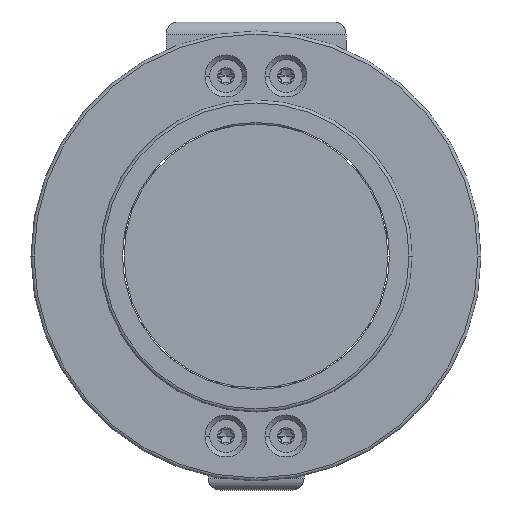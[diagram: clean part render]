
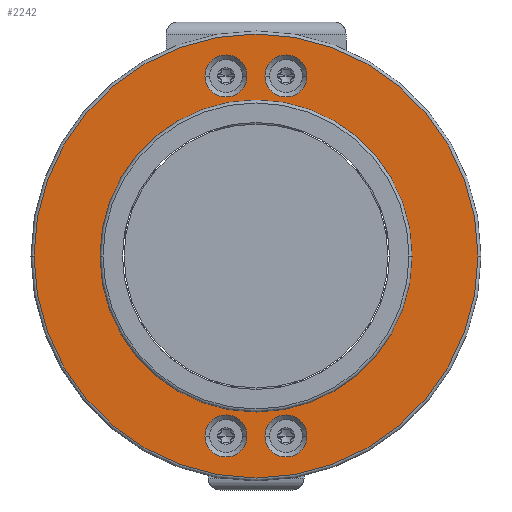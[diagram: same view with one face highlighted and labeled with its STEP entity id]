
A CAD part, front view. The second image highlights one B-rep face of the part: STEP entity #2242.
In plain terms, the highlighted planar face has unit normal (0, -1, 0) as drawn and (0, 1, 0) by its records, which use the part's own axes.
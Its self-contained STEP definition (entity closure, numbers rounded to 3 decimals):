
#1277=CARTESIAN_POINT('',(0.,2.,0.));
#1278=DIRECTION('',(0.,-1.,0.));
#1279=DIRECTION('',(-1.,0.,0.));
#1280=AXIS2_PLACEMENT_3D('',#1277,#1278,#1279);
#1285=CARTESIAN_POINT('',(0.,2.,0.));
#1286=DIRECTION('',(0.,-1.,0.));
#1287=DIRECTION('',(1.,0.,0.));
#1288=AXIS2_PLACEMENT_3D('',#1285,#1286,#1287);
#1293=CARTESIAN_POINT('',(0.,2.,0.));
#1294=DIRECTION('',(0.,-1.,0.));
#1295=DIRECTION('',(-1.,0.,0.));
#1296=AXIS2_PLACEMENT_3D('',#1293,#1294,#1295);
#1301=CARTESIAN_POINT('',(0.,2.,0.));
#1302=DIRECTION('',(0.,-1.,0.));
#1303=DIRECTION('',(1.,0.,0.));
#1304=AXIS2_PLACEMENT_3D('',#1301,#1302,#1303);
#1309=CARTESIAN_POINT('',(-5.,2.,-30.));
#1310=DIRECTION('',(0.,1.,0.));
#1311=DIRECTION('',(1.,0.,0.));
#1312=AXIS2_PLACEMENT_3D('',#1309,#1310,#1311);
#1317=CARTESIAN_POINT('',(-5.,2.,-30.));
#1318=DIRECTION('',(0.,1.,0.));
#1319=DIRECTION('',(-1.,0.,0.));
#1320=AXIS2_PLACEMENT_3D('',#1317,#1318,#1319);
#1325=CARTESIAN_POINT('',(5.,2.,-30.));
#1326=DIRECTION('',(0.,1.,0.));
#1327=DIRECTION('',(1.,0.,0.));
#1328=AXIS2_PLACEMENT_3D('',#1325,#1326,#1327);
#1333=CARTESIAN_POINT('',(5.,2.,-30.));
#1334=DIRECTION('',(0.,1.,0.));
#1335=DIRECTION('',(-1.,0.,0.));
#1336=AXIS2_PLACEMENT_3D('',#1333,#1334,#1335);
#1341=CARTESIAN_POINT('',(-5.,2.,30.));
#1342=DIRECTION('',(0.,1.,0.));
#1343=DIRECTION('',(1.,0.,0.));
#1344=AXIS2_PLACEMENT_3D('',#1341,#1342,#1343);
#1349=CARTESIAN_POINT('',(-5.,2.,30.));
#1350=DIRECTION('',(0.,1.,0.));
#1351=DIRECTION('',(-1.,0.,0.));
#1352=AXIS2_PLACEMENT_3D('',#1349,#1350,#1351);
#1357=CARTESIAN_POINT('',(5.,2.,30.));
#1358=DIRECTION('',(0.,1.,0.));
#1359=DIRECTION('',(1.,0.,0.));
#1360=AXIS2_PLACEMENT_3D('',#1357,#1358,#1359);
#1365=CARTESIAN_POINT('',(5.,2.,30.));
#1366=DIRECTION('',(0.,1.,0.));
#1367=DIRECTION('',(-1.,0.,0.));
#1368=AXIS2_PLACEMENT_3D('',#1365,#1366,#1367);
#1859=CARTESIAN_POINT('',(-26.,2.,0.));
#1860=CARTESIAN_POINT('',(26.,2.,0.));
#1861=VERTEX_POINT('',#1859);
#1862=VERTEX_POINT('',#1860);
#1875=CARTESIAN_POINT('',(-37.,2.,0.));
#1876=CARTESIAN_POINT('',(37.,2.,0.));
#1877=VERTEX_POINT('',#1875);
#1878=VERTEX_POINT('',#1876);
#1895=CARTESIAN_POINT('',(-1.5,2.,-30.));
#1896=CARTESIAN_POINT('',(-8.5,2.,-30.));
#1897=VERTEX_POINT('',#1895);
#1898=VERTEX_POINT('',#1896);
#1907=CARTESIAN_POINT('',(8.5,2.,-30.));
#1908=CARTESIAN_POINT('',(1.5,2.,-30.));
#1909=VERTEX_POINT('',#1907);
#1910=VERTEX_POINT('',#1908);
#1919=CARTESIAN_POINT('',(-1.5,2.,30.));
#1920=CARTESIAN_POINT('',(-8.5,2.,30.));
#1921=VERTEX_POINT('',#1919);
#1922=VERTEX_POINT('',#1920);
#1931=CARTESIAN_POINT('',(8.5,2.,30.));
#1932=CARTESIAN_POINT('',(1.5,2.,30.));
#1933=VERTEX_POINT('',#1931);
#1934=VERTEX_POINT('',#1932);
#2203=CARTESIAN_POINT('',(0.,2.,0.));
#2204=DIRECTION('',(0.,1.,0.));
#2205=DIRECTION('',(-1.,0.,0.));
#2206=AXIS2_PLACEMENT_3D('',#2203,#2204,#2205);
#2207=PLANE('',#2206);
#2209=ORIENTED_EDGE('',*,*,#2208,.T.);
#2211=ORIENTED_EDGE('',*,*,#2210,.T.);
#2212=EDGE_LOOP('',(#2209,#2211));
#2213=FACE_OUTER_BOUND('',#2212,.F.);
#2214=ORIENTED_EDGE('',*,*,#2183,.F.);
#2215=ORIENTED_EDGE('',*,*,#2197,.F.);
#2216=EDGE_LOOP('',(#2214,#2215));
#2217=FACE_BOUND('',#2216,.F.);
#2219=ORIENTED_EDGE('',*,*,#2218,.T.);
#2221=ORIENTED_EDGE('',*,*,#2220,.T.);
#2222=EDGE_LOOP('',(#2219,#2221));
#2223=FACE_BOUND('',#2222,.F.);
#2225=ORIENTED_EDGE('',*,*,#2224,.T.);
#2227=ORIENTED_EDGE('',*,*,#2226,.T.);
#2228=EDGE_LOOP('',(#2225,#2227));
#2229=FACE_BOUND('',#2228,.F.);
#2231=ORIENTED_EDGE('',*,*,#2230,.T.);
#2233=ORIENTED_EDGE('',*,*,#2232,.T.);
#2234=EDGE_LOOP('',(#2231,#2233));
#2235=FACE_BOUND('',#2234,.F.);
#2237=ORIENTED_EDGE('',*,*,#2236,.T.);
#2239=ORIENTED_EDGE('',*,*,#2238,.T.);
#2240=EDGE_LOOP('',(#2237,#2239));
#2241=FACE_BOUND('',#2240,.F.);
#1281=CIRCLE('',#1280,26.);
#1289=CIRCLE('',#1288,26.);
#1297=CIRCLE('',#1296,37.);
#1305=CIRCLE('',#1304,37.);
#1313=CIRCLE('',#1312,3.5);
#1321=CIRCLE('',#1320,3.5);
#1329=CIRCLE('',#1328,3.5);
#1337=CIRCLE('',#1336,3.5);
#1345=CIRCLE('',#1344,3.5);
#1353=CIRCLE('',#1352,3.5);
#1361=CIRCLE('',#1360,3.5);
#1369=CIRCLE('',#1368,3.5);
#2183=EDGE_CURVE('',#1861,#1862,#1281,.T.);
#2197=EDGE_CURVE('',#1862,#1861,#1289,.T.);
#2208=EDGE_CURVE('',#1877,#1878,#1297,.T.);
#2210=EDGE_CURVE('',#1878,#1877,#1305,.T.);
#2218=EDGE_CURVE('',#1897,#1898,#1313,.T.);
#2220=EDGE_CURVE('',#1898,#1897,#1321,.T.);
#2224=EDGE_CURVE('',#1909,#1910,#1329,.T.);
#2226=EDGE_CURVE('',#1910,#1909,#1337,.T.);
#2230=EDGE_CURVE('',#1921,#1922,#1345,.T.);
#2232=EDGE_CURVE('',#1922,#1921,#1353,.T.);
#2236=EDGE_CURVE('',#1933,#1934,#1361,.T.);
#2238=EDGE_CURVE('',#1934,#1933,#1369,.T.);
#2242=ADVANCED_FACE('',(#2213,#2217,#2223,#2229,#2235,#2241),#2207,.T.);
